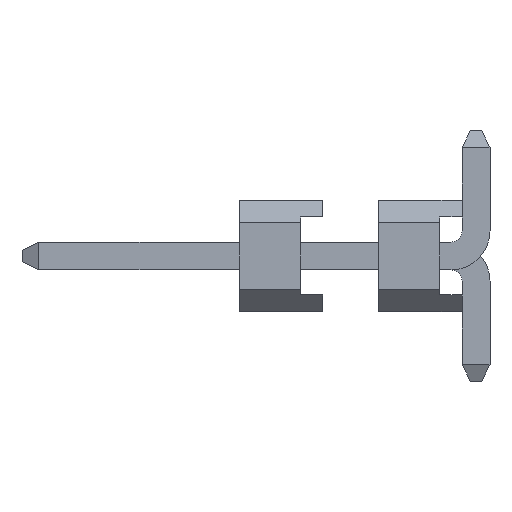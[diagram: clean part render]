
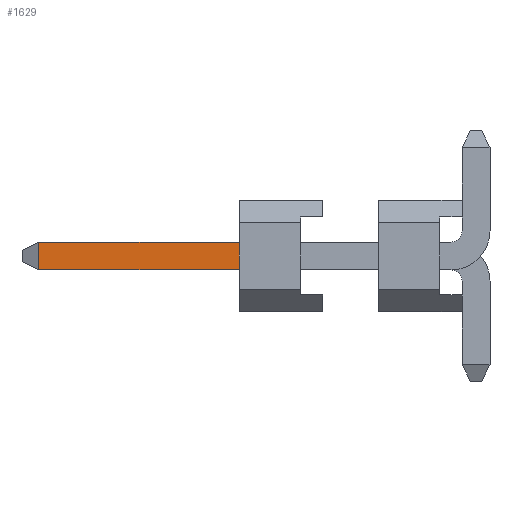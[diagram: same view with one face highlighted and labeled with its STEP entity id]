
A CAD part, left-side view. The second image highlights one B-rep face of the part: STEP entity #1629.
In plain terms, the highlighted planar face has unit normal (-1, 0, 0).
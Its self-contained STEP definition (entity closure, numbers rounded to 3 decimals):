
#1313=FACE_OUTER_BOUND('',#2341,.T.);
#1629=ADVANCED_FACE('',(#1313),#1961,.F.);
#1961=PLANE('',#7530);
#2341=EDGE_LOOP('',(#2966,#2967,#2968,#2969));
#2966=ORIENTED_EDGE('',*,*,#5098,.F.);
#2967=ORIENTED_EDGE('',*,*,#5099,.T.);
#2968=ORIENTED_EDGE('',*,*,#5100,.F.);
#2969=ORIENTED_EDGE('',*,*,#5101,.T.);
#4488=VERTEX_POINT('',#9764);
#4489=VERTEX_POINT('',#9765);
#4490=VERTEX_POINT('',#9767);
#4491=VERTEX_POINT('',#9769);
#5098=EDGE_CURVE('',#4488,#4489,#5954,.T.);
#5099=EDGE_CURVE('',#4488,#4490,#5955,.T.);
#5100=EDGE_CURVE('',#4491,#4490,#5956,.T.);
#5101=EDGE_CURVE('',#4491,#4489,#5957,.T.);
#5954=LINE('',#9763,#6794);
#5955=LINE('',#9766,#6795);
#5956=LINE('',#9768,#6796);
#5957=LINE('',#9770,#6797);
#6794=VECTOR('',#8147,1.);
#6795=VECTOR('',#8148,1.);
#6796=VECTOR('',#8149,1.);
#6797=VECTOR('',#8150,1.);
#7530=AXIS2_PLACEMENT_3D('',#9771,#8151,#8152);
#8147=DIRECTION('',(0.,-1.,0.));
#8148=DIRECTION('',(0.,0.,-1.));
#8149=DIRECTION('',(0.,1.,0.));
#8150=DIRECTION('',(0.,0.,1.));
#8151=DIRECTION('',(1.,0.,0.));
#8152=DIRECTION('',(0.,1.,0.));
#9763=CARTESIAN_POINT('',(-1.202,-1.776,1.2));
#9764=CARTESIAN_POINT('',(-1.202,7.624,1.2));
#9765=CARTESIAN_POINT('',(-1.202,4.024,1.2));
#9766=CARTESIAN_POINT('',(-1.202,7.624,1.4));
#9767=CARTESIAN_POINT('',(-1.202,7.624,0.7));
#9768=CARTESIAN_POINT('',(-1.202,5.824,0.7));
#9769=CARTESIAN_POINT('',(-1.202,4.024,0.7));
#9770=CARTESIAN_POINT('',(-1.202,4.024,2.));
#9771=CARTESIAN_POINT('',(-1.202,-1.776,1.4));
